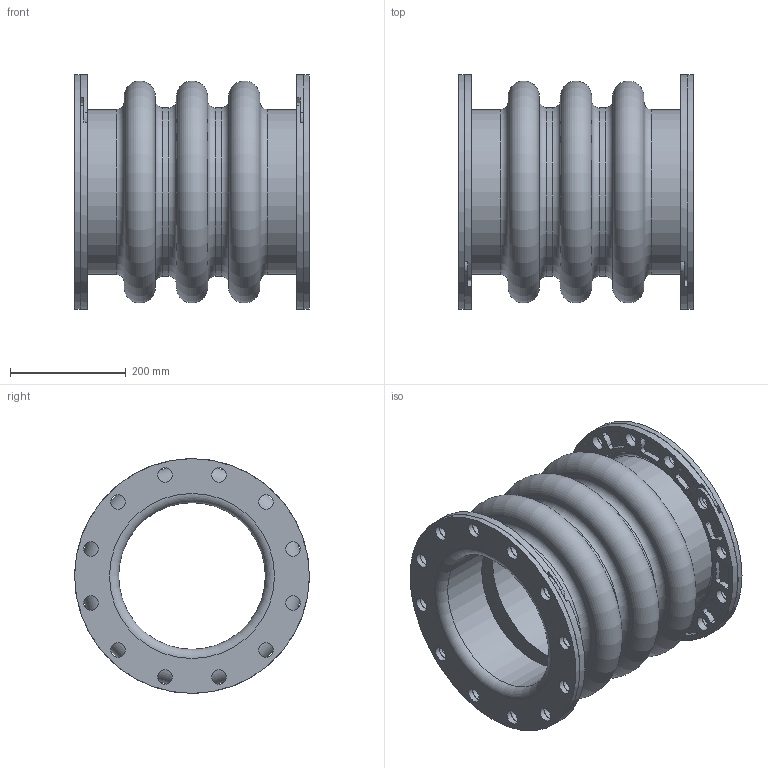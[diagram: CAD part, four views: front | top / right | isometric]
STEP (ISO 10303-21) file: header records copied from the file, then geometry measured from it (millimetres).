
FILE_DESCRIPTION(/* description */ (''),/* implementation_level */ '2;1');
FILE_NAME(/* name */ 'C:\001_Work\Designs\Mercer2014\MQInventor2014\RajR\500 Style\503\New folder\503 10IDx16FF.stp',/* time_stamp */ '2016-03-26T18:07:59-04:00',/* author */ ('rramoutar'),/* organization */ ('Mason Industries Inc.'),/* preprocessor_version */ 'ST-DEVELOPER v15.6',/* originating_system */ 'Autodesk Inventor 2015',/* authorisation */ '');
FILE_SCHEMA (('CONFIG_CONTROL_DESIGN'));
Length unit declared in the file: inch
Products named in the file (1): 503 10IDx16FF
Bounding box: 406.4 x 406.4 x 406.4 mm (x, y, z)
Volume: 11642584.7 mm3; surface area: 1808516.5 mm2
Topology: 5 solids, 5 shells, 374 faces, 984 edges, 646 vertices
Faces by surface type: cylinder 270, plane 68, torus 24, cone 12
Full cylindrical faces by diameter (mm): 25.4 x52, 254 x4, 285.75 x2, 292.1 x2, 406.4 x2
Entity records: 12151 total; most frequent: DIRECTION 2210, CARTESIAN_POINT 2099, ORIENTED_EDGE 1780, AXIS2_PLACEMENT_3D 961, EDGE_CURVE 890, VERTEX_POINT 642, EDGE_LOOP 596, CIRCLE 586
